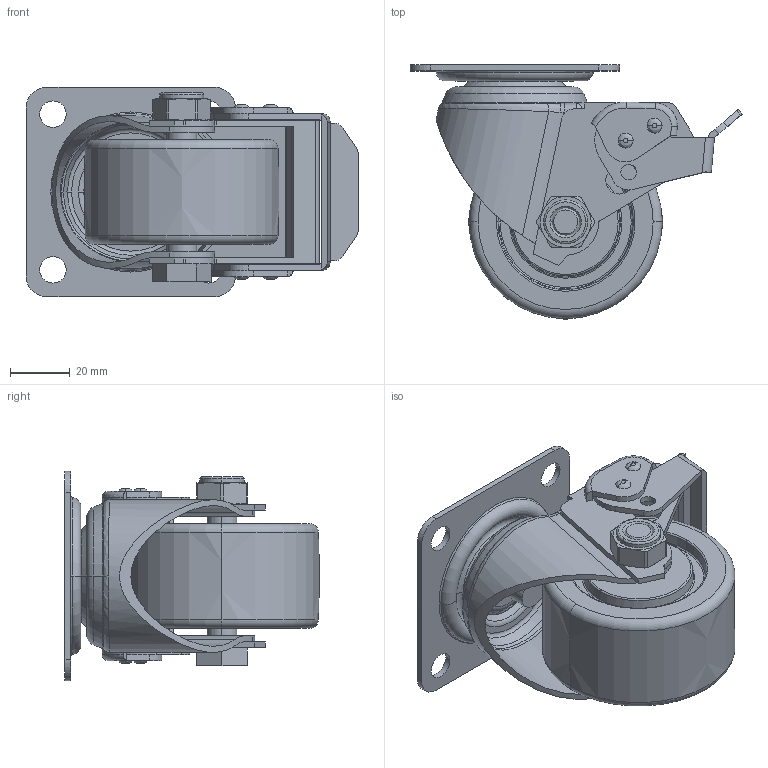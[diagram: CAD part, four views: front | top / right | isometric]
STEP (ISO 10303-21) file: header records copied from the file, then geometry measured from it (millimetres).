
FILE_DESCRIPTION((''),'2;1');
FILE_NAME('M413225_ASM','2022-01-19T',('lenovo'),(''),'PRO/ENGINEER BY PARAMETRIC TECHNOLOGY CORPORATION, 2010280','PRO/ENGINEER BY PARAMETRIC TECHNOLOGY CORPORATION, 2010280','');
FILE_SCHEMA(('CONFIG_CONTROL_DESIGN'));
Length unit declared in the file: millimetre
Products named in the file (11): M41365-311; M4130-201; M410-31; M4125-16; M41325-535; M41350-531; M4130-461; M4130-462; M410-20-M10X57; 630-34; M413225_ASM
Assembly tree (10 placements, depth 2):
  M413225_ASM
    M41365-311
    M4130-201
    M410-31
    M4125-16
    M41325-535
    M41350-531
    M4130-461
    M4130-462
    M410-20-M10X57
    630-34
Bounding box: 110.91 x 84.97 x 70 mm (x, y, z)
Volume: 155242.3 mm3; surface area: 63959.6 mm2
Topology: 10 solids, 10 shells, 381 faces, 933 edges, 586 vertices
Faces by surface type: cylinder 127, plane 121, torus 55, cone 42, bspline 34, sphere 2
Entity records: 13769 total; most frequent: CARTESIAN_POINT 4408, DIRECTION 2030, ORIENTED_EDGE 1866, EDGE_CURVE 933, AXIS2_PLACEMENT_3D 827, VERTEX_POINT 586, CIRCLE 459, EDGE_LOOP 435
